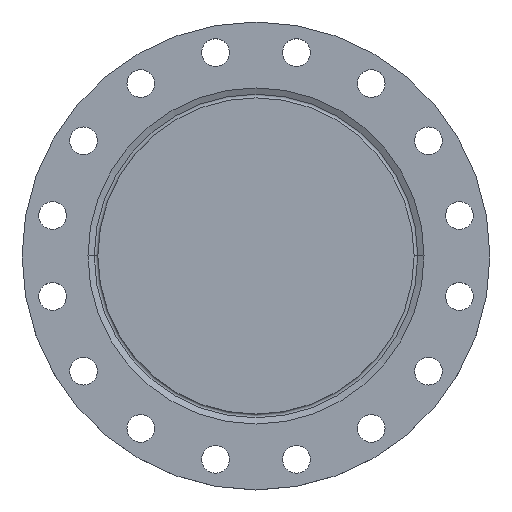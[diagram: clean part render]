
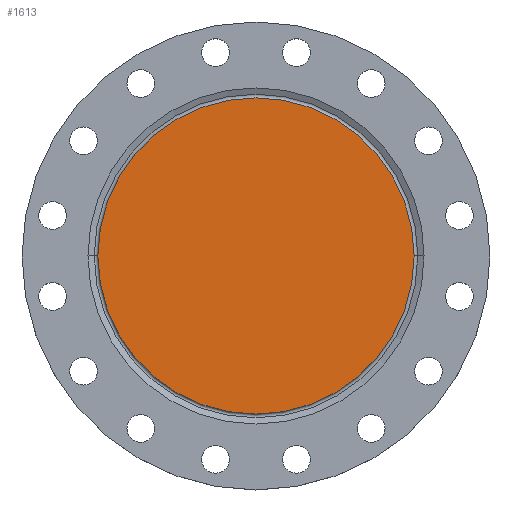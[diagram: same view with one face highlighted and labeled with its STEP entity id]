
A CAD part, top view. The second image highlights one B-rep face of the part: STEP entity #1613.
In plain terms, the highlighted planar face has unit normal (0, 0, 1).
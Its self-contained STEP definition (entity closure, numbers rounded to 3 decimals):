
#87 = EDGE_CURVE ( 'NONE', #1495, #282, #913, .T. ) ;
#131 = CARTESIAN_POINT ( 'NONE',  ( 0., 0., 0. ) ) ;
#235 = ORIENTED_EDGE ( 'NONE', *, *, #87, .F. ) ;
#282 = VERTEX_POINT ( 'NONE', #1047 ) ;
#317 = DIRECTION ( 'NONE',  ( 0., 0., -1. ) ) ;
#450 = DIRECTION ( 'NONE',  ( -1., 0., 0. ) ) ;
#530 = EDGE_CURVE ( 'NONE', #282, #1495, #1410, .T. ) ;
#594 = AXIS2_PLACEMENT_3D ( 'NONE', #1523, #317, #858 ) ;
#659 = DIRECTION ( 'NONE',  ( 0., 0., 1. ) ) ;
#795 = FACE_OUTER_BOUND ( 'NONE', #1693, .T. ) ;
#858 = DIRECTION ( 'NONE',  ( -1., 0., 0. ) ) ;
#913 = CIRCLE ( 'NONE', #1083, 223. ) ;
#1047 = CARTESIAN_POINT ( 'NONE',  ( -223., 0., 0. ) ) ;
#1083 = AXIS2_PLACEMENT_3D ( 'NONE', #1122, #1657, #450 ) ;
#1122 = CARTESIAN_POINT ( 'NONE',  ( 0., 0., 0. ) ) ;
#1167 = AXIS2_PLACEMENT_3D ( 'NONE', #131, #659, #1197 ) ;
#1197 = DIRECTION ( 'NONE',  ( 1., 0., 0. ) ) ;
#1286 = CARTESIAN_POINT ( 'NONE',  ( 223., 0., 0. ) ) ;
#1331 = PLANE ( 'NONE',  #1167 ) ;
#1375 = ORIENTED_EDGE ( 'NONE', *, *, #530, .F. ) ;
#1410 = CIRCLE ( 'NONE', #594, 223. ) ;
#1495 = VERTEX_POINT ( 'NONE', #1286 ) ;
#1523 = CARTESIAN_POINT ( 'NONE',  ( 0., 0., 0. ) ) ;
#1613 = ADVANCED_FACE ( 'NONE', ( #795 ), #1331, .T. ) ;
#1657 = DIRECTION ( 'NONE',  ( 0., 0., -1. ) ) ;
#1693 = EDGE_LOOP ( 'NONE', ( #1375, #235 ) ) ;
